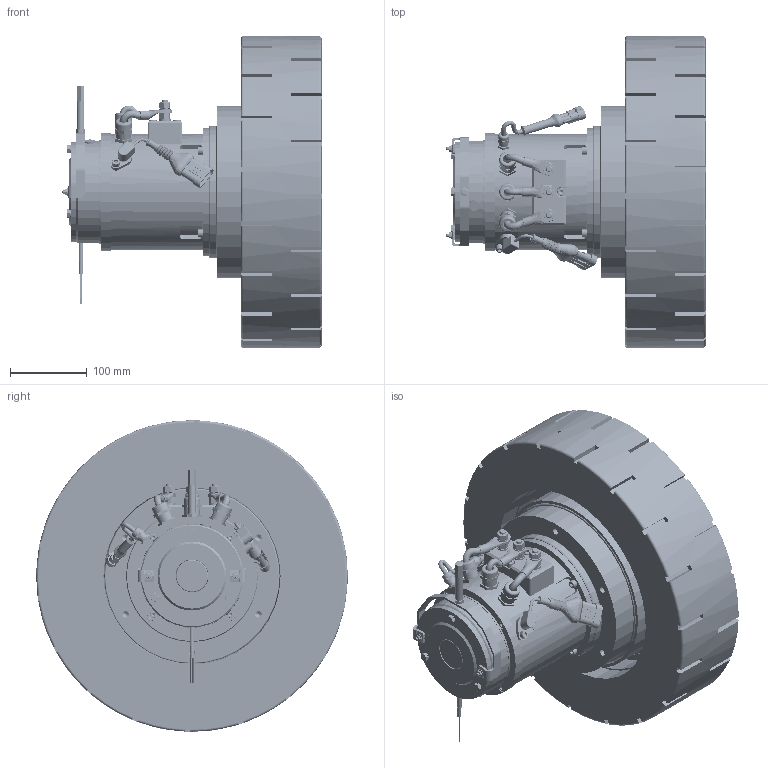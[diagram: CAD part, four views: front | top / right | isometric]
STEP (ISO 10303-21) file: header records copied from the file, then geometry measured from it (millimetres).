
FILE_DESCRIPTION(/* description */ (''),/* implementation_level */ '2;1');
FILE_NAME(/* name */ 'Z:\SITO WEB 2024\Dual Drive\MRH182\MRH182 AC D.406 mm\MRH182.AC.D406.stp',/* time_stamp */ '2024-03-07T14:28:32+01:00',/* author */ ('cad3'),/* organization */ (''),/* preprocessor_version */ 'ST-DEVELOPER v18.1',/* originating_system */ 'Autodesk Inventor 2022',/* authorisation */ '');
FILE_SCHEMA (('AUTOMOTIVE_DESIGN { 1 0 10303 214 3 1 1 }'));
Products named in the file (1): MRH182.AC.D406
Bounding box: 337.63 x 405.98 x 405.98 mm (x, y, z)
Volume: 13572035.7 mm3; surface area: 1287194.4 mm2
Topology: 10 solids, 52 shells, 4677 faces, 12361 edges, 7912 vertices
Faces by surface type: plane 3009, cylinder 774, cone 477, bspline 225, torus 188, sphere 4
Full cylindrical faces by diameter (mm): 0.5 x2, 1.5 x2, 4 x8, 4.134 x8, 4.3 x6, 4.5 x2, 4.625 x1, 4.917 x5, 5 x10, 5.2 x2, 5.3 x4, 5.4 x1, 5.5 x5, 5.637 x1, 6 x17, 6.2 x7, 6.3 x5, 6.4 x3, 6.5 x6, 6.647 x4, 7 x2, 7.5 x1, 8 x22, 8.1 x1, 8.2 x3, 8.3 x2, 8.4 x5, 8.5 x11, 8.75 x3, 8.88 x3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
Entity records: 182969 total; most frequent: CARTESIAN_POINT 62166, ORIENTED_EDGE 24668, DIRECTION 23831, EDGE_CURVE 12334, AXIS2_PLACEMENT_3D 8428, VERTEX_POINT 7919, LINE 6975, VECTOR 6975
